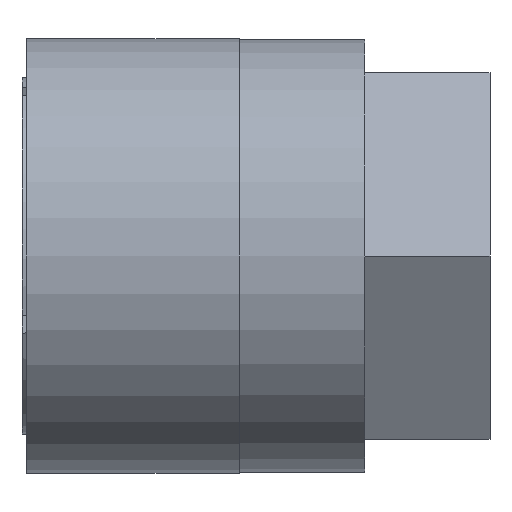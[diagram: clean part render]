
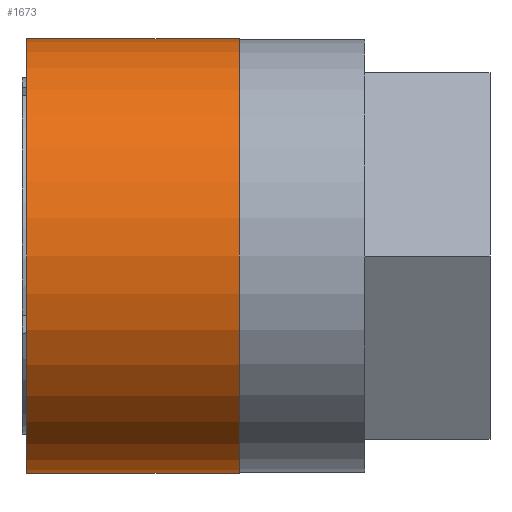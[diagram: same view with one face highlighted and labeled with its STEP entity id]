
A CAD part, front view. The second image highlights one B-rep face of the part: STEP entity #1673.
In plain terms, the highlighted cylindrical face has radius 22.5 mm (diameter 45 mm), a partial arc.
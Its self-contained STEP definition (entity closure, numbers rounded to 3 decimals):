
#63 = AXIS2_PLACEMENT_3D ( 'NONE', #428, #429, #431 ) ;
#160 = AXIS2_PLACEMENT_3D ( 'NONE', #677, #665, #664 ) ;
#163 = AXIS2_PLACEMENT_3D ( 'NONE', #689, #688, #687 ) ;
#240 = EDGE_CURVE ( 'NONE', #1539, #1536, #1009, .T. ) ;
#245 = EDGE_CURVE ( 'NONE', #1539, #1538, #1015, .T. ) ;
#248 = EDGE_CURVE ( 'NONE', #1536, #1535, #1019, .T. ) ;
#249 = EDGE_CURVE ( 'NONE', #1538, #1535, #1022, .T. ) ;
#428 = CARTESIAN_POINT ( 'NONE',  ( 0., 0., 0. ) ) ;
#429 = DIRECTION ( 'NONE',  ( -1., 0., 0. ) ) ;
#431 = DIRECTION ( 'NONE',  ( 0., 0., 1. ) ) ;
#570 = CARTESIAN_POINT ( 'NONE',  ( 22.5, 0., -22.5 ) ) ;
#571 = CARTESIAN_POINT ( 'NONE',  ( 0.5, 0., -22.5 ) ) ;
#573 = CARTESIAN_POINT ( 'NONE',  ( 22.5, 0., 22.5 ) ) ;
#574 = CARTESIAN_POINT ( 'NONE',  ( 0.5, 0., 22.5 ) ) ;
#664 = DIRECTION ( 'NONE',  ( 0., 0., 1. ) ) ;
#665 = DIRECTION ( 'NONE',  ( -1., 0., 0. ) ) ;
#667 = DIRECTION ( 'NONE',  ( -1., 0., 0. ) ) ;
#668 = CARTESIAN_POINT ( 'NONE',  ( 0., 0., 22.5 ) ) ;
#675 = DIRECTION ( 'NONE',  ( -1., 0., 0. ) ) ;
#676 = CARTESIAN_POINT ( 'NONE',  ( 0., 0., -22.5 ) ) ;
#677 = CARTESIAN_POINT ( 'NONE',  ( 0.5, 0., 0. ) ) ;
#687 = DIRECTION ( 'NONE',  ( 0., 0., 1. ) ) ;
#688 = DIRECTION ( 'NONE',  ( -1., 0., 0. ) ) ;
#689 = CARTESIAN_POINT ( 'NONE',  ( 22.5, 0., 0. ) ) ;
#1009 = CIRCLE ( 'NONE', #163, 22.5 ) ;
#1015 = LINE ( 'NONE', #676, #1016 ) ;
#1016 = VECTOR ( 'NONE', #675, 1000. ) ;
#1019 = LINE ( 'NONE', #668, #1020 ) ;
#1020 = VECTOR ( 'NONE', #667, 1000. ) ;
#1022 = CIRCLE ( 'NONE', #160, 22.5 ) ;
#1093 = FACE_OUTER_BOUND ( 'NONE', #1302, .T. ) ;
#1097 = CYLINDRICAL_SURFACE ( 'NONE', #63, 22.5 ) ;
#1245 = ORIENTED_EDGE ( 'NONE', *, *, #245, .F. ) ;
#1246 = ORIENTED_EDGE ( 'NONE', *, *, #240, .T. ) ;
#1247 = ORIENTED_EDGE ( 'NONE', *, *, #248, .T. ) ;
#1248 = ORIENTED_EDGE ( 'NONE', *, *, #249, .F. ) ;
#1302 = EDGE_LOOP ( 'NONE', ( #1245, #1246, #1247, #1248 ) ) ;
#1535 = VERTEX_POINT ( 'NONE', #574 ) ;
#1536 = VERTEX_POINT ( 'NONE', #573 ) ;
#1538 = VERTEX_POINT ( 'NONE', #571 ) ;
#1539 = VERTEX_POINT ( 'NONE', #570 ) ;
#1673 = ADVANCED_FACE ( 'NONE', ( #1093 ), #1097, .T. ) ;
